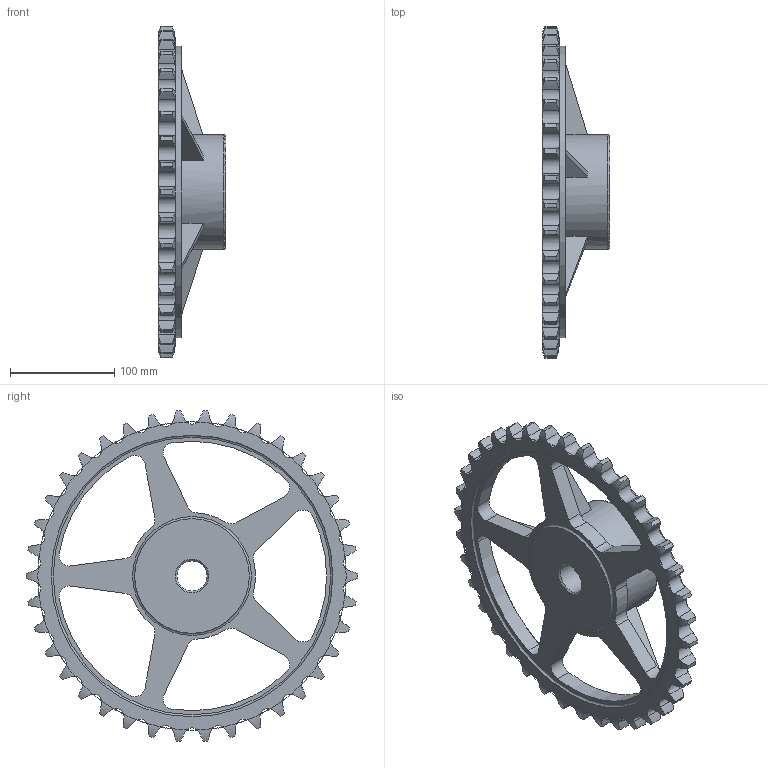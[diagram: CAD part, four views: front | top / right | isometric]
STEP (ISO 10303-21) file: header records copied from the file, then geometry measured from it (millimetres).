
FILE_DESCRIPTION(/* description */ (''),/* implementation_level */ '2;1');
FILE_NAME(/* name */ 'C:\Users\stagistacad\Desktop\12125038.stp',/* time_stamp */ '2018-06-20T16:37:49+02:00',/* author */ ('stagistacad'),/* organization */ (''),/* preprocessor_version */ 'ST-DEVELOPER v15.6',/* originating_system */ 'Autodesk Inventor 2015',/* authorisation */ '');
FILE_SCHEMA (('AUTOMOTIVE_DESIGN { 1 0 10303 214 3 1 1 }'));
Length unit declared in the file: millimetre
Products named in the file (1): 12125038
Bounding box: 65 x 318.7 x 317.92 mm (x, y, z)
Volume: 1103529.2 mm3; surface area: 167672.4 mm2
Topology: 1 solids, 1 shells, 319 faces, 1085 edges, 696 vertices
Faces by surface type: cylinder 193, plane 69, torus 50, cone 7
Full cylindrical faces by diameter (mm): 29 x1, 110 x2, 270.303 x2, 280 x1
Entity records: 12902 total; most frequent: CARTESIAN_POINT 3678, ORIENTED_EDGE 2136, DIRECTION 1858, EDGE_CURVE 1068, AXIS2_PLACEMENT_3D 808, VERTEX_POINT 692, CIRCLE 488, EDGE_LOOP 348
